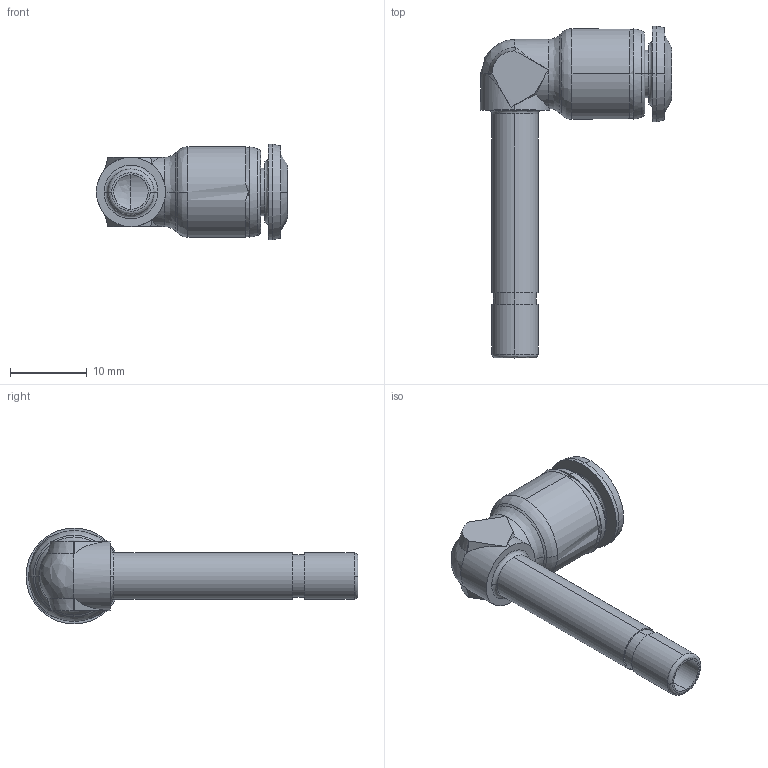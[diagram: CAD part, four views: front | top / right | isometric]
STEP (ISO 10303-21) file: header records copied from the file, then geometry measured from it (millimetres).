
FILE_DESCRIPTION (( 'STEP AP214' ), '1' );
FILE_NAME ('5515000005A.STEP', '2016-07-22T08:51:42', ( '' ), ( '' ), 'SwSTEP 2.0', 'SolidWorks 2016', '' );
FILE_SCHEMA (( 'AUTOMOTIVE_DESIGN' ));
Length unit declared in the file: millimetre
Products named in the file (2): 5515000005A
Bounding box: 24.9 x 43.25 x 12.5 mm (x, y, z)
Surface area: 2257.8 mm2 (no closed solid volume)
Topology: 0 solids, 2 shells, 108 faces, 290 edges, 184 vertices
Faces by surface type: bspline 43, cone 26, plane 20, cylinder 19
Entity records: 7471 total; most frequent: CARTESIAN_POINT 5149, ORIENTED_EDGE 530, DIRECTION 335, EDGE_CURVE 273, VERTEX_POINT 176, AXIS2_PLACEMENT_3D 131, EDGE_LOOP 121, B_SPLINE_CURVE_WITH_KNOTS 117
